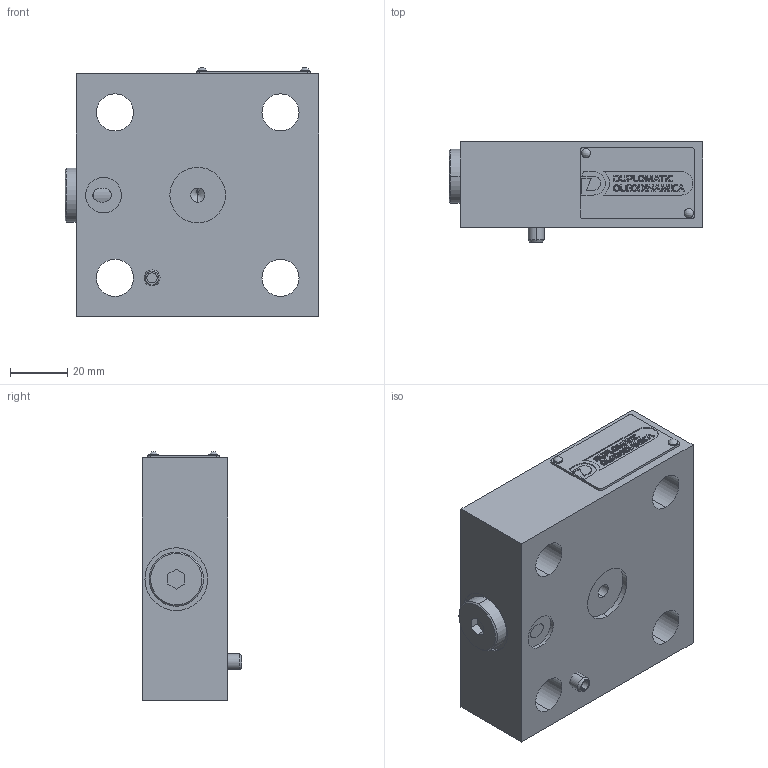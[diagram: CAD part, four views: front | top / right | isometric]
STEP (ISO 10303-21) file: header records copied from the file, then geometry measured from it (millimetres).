
FILE_DESCRIPTION (( 'STEP AP203' ), '1' );
FILE_NAME ('LP25R_20N.STEP', '2020-06-10T10:04:08', ( '' ), ( '' ), 'SwSTEP 2.0', 'SolidWorks 2020', '' );
FILE_SCHEMA (( 'CONFIG_CONTROL_DESIGN' ));
Length unit declared in the file: millimetre
Products named in the file (1): LP25R_20N
Bounding box: 89 x 35 x 87.2 mm (x, y, z)
Surface area: 35051 mm2 (no closed solid volume)
Topology: 0 solids, 4 shells, 463 faces, 1210 edges, 802 vertices
Faces by surface type: plane 247, cylinder 201, cone 13, bspline 2
Entity records: 14557 total; most frequent: CARTESIAN_POINT 2673, DIRECTION 2538, ORIENTED_EDGE 2412, EDGE_CURVE 1208, AXIS2_PLACEMENT_3D 873, VERTEX_POINT 802, VECTOR 792, LINE 792
